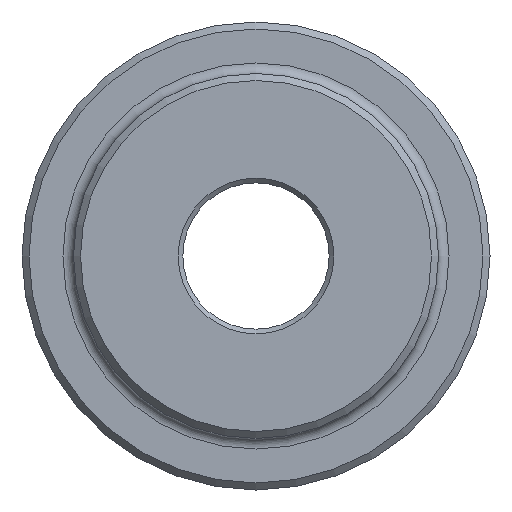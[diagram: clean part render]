
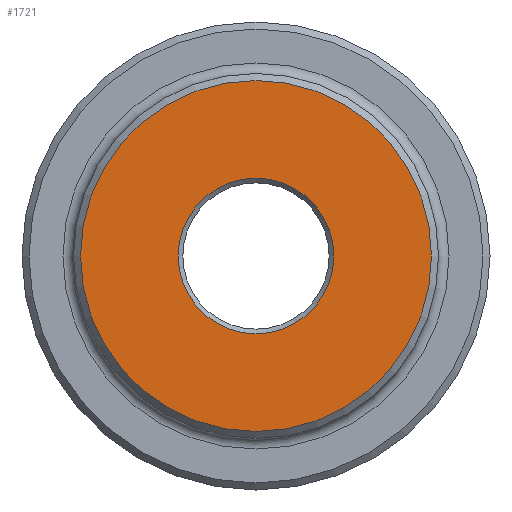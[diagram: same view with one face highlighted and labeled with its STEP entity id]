
A CAD part, left-side view. The second image highlights one B-rep face of the part: STEP entity #1721.
In plain terms, the highlighted planar face has unit normal (-1, 0, 0).
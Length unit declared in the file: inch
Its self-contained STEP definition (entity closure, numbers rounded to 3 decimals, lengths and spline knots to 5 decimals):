
#147 = PLANE ( 'NONE',  #707 ) ;
#163 = DIRECTION ( 'NONE',  ( 0., 0., -1. ) ) ;
#190 = CARTESIAN_POINT ( 'NONE',  ( 0., 0., -1.5 ) ) ;
#192 = EDGE_LOOP ( 'NONE', ( #960 ) ) ;
#208 = FACE_OUTER_BOUND ( 'NONE', #1232, .T. ) ;
#463 = CARTESIAN_POINT ( 'NONE',  ( 0., 0., 0. ) ) ;
#568 = ORIENTED_EDGE ( 'NONE', *, *, #1278, .T. ) ;
#590 = VERTEX_POINT ( 'NONE', #190 ) ;
#647 = AXIS2_PLACEMENT_3D ( 'NONE', #772, #1319, #163 ) ;
#662 = VERTEX_POINT ( 'NONE', #1175 ) ;
#707 = AXIS2_PLACEMENT_3D ( 'NONE', #1613, #1194, #1723 ) ;
#772 = CARTESIAN_POINT ( 'NONE',  ( 0., 0., 0. ) ) ;
#960 = ORIENTED_EDGE ( 'NONE', *, *, #1314, .T. ) ;
#1097 = DIRECTION ( 'NONE',  ( 0., 0., -1. ) ) ;
#1175 = CARTESIAN_POINT ( 'NONE',  ( 0., 0., -0.66525 ) ) ;
#1194 = DIRECTION ( 'NONE',  ( 1., 0., 0. ) ) ;
#1196 = AXIS2_PLACEMENT_3D ( 'NONE', #463, #1508, #1097 ) ;
#1232 = EDGE_LOOP ( 'NONE', ( #568 ) ) ;
#1278 = EDGE_CURVE ( 'NONE', #590, #590, #1690, .T. ) ;
#1314 = EDGE_CURVE ( 'NONE', #662, #662, #1520, .T. ) ;
#1319 = DIRECTION ( 'NONE',  ( -1., 0., 0. ) ) ;
#1397 = FACE_BOUND ( 'NONE', #192, .T. ) ;
#1508 = DIRECTION ( 'NONE',  ( 1., 0., 0. ) ) ;
#1520 = CIRCLE ( 'NONE', #1196, 0.66525 ) ;
#1613 = CARTESIAN_POINT ( 'NONE',  ( 0., 0., 0. ) ) ;
#1690 = CIRCLE ( 'NONE', #647, 1.5 ) ;
#1721 = ADVANCED_FACE ( 'NONE', ( #1397, #208 ), #147, .F. ) ;
#1723 = DIRECTION ( 'NONE',  ( 0., 0., -1. ) ) ;
